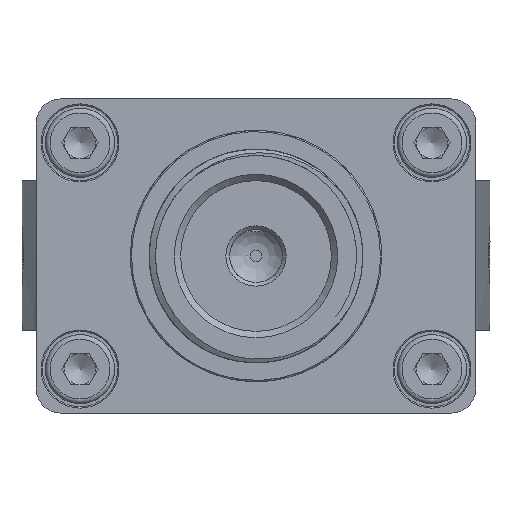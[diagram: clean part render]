
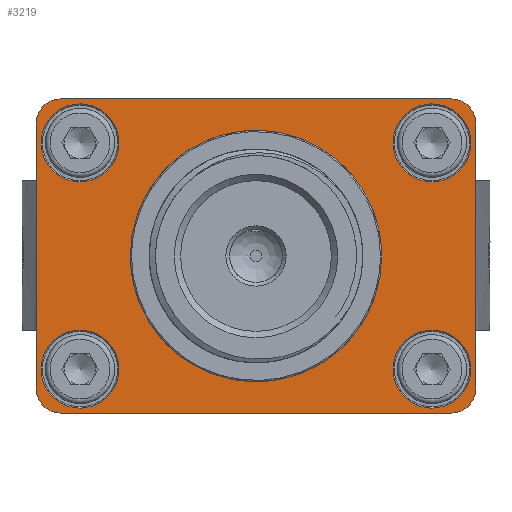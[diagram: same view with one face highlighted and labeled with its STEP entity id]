
A CAD part, front view. The second image highlights one B-rep face of the part: STEP entity #3219.
In plain terms, the highlighted planar face has unit normal (0, -1, 0).
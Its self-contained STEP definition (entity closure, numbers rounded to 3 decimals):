
#3219=ADVANCED_FACE('',(#13758,#13759,#13760,#13761,#13762,#13763),#4934,
 .T.);
#4934=PLANE('',#32162);
#6473=LINE('',#42852,#10106);
#6482=LINE('',#42883,#10115);
#6483=LINE('',#42887,#10116);
#6484=LINE('',#42892,#10117);
#10106=VECTOR('',#34336,1.);
#10115=VECTOR('',#34359,1.);
#10116=VECTOR('',#34362,1.);
#10117=VECTOR('',#34367,1.);
#13758=FACE_BOUND('',#14425,.T.);
#13759=FACE_BOUND('',#14426,.T.);
#13760=FACE_BOUND('',#14427,.T.);
#13761=FACE_BOUND('',#14428,.T.);
#13762=FACE_BOUND('',#14429,.T.);
#13763=FACE_BOUND('',#14430,.T.);
#14425=EDGE_LOOP('',(#16610));
#14426=EDGE_LOOP('',(#16611));
#14427=EDGE_LOOP('',(#16612));
#14428=EDGE_LOOP('',(#16613));
#14429=EDGE_LOOP('',(#16614));
#14430=EDGE_LOOP('',(#16615,#16616,#16617,#16618,#16619,#16620,#16621,#16622));
#16610=ORIENTED_EDGE('',*,*,#27616,.T.);
#16611=ORIENTED_EDGE('',*,*,#27614,.T.);
#16612=ORIENTED_EDGE('',*,*,#27612,.T.);
#16613=ORIENTED_EDGE('',*,*,#27610,.T.);
#16614=ORIENTED_EDGE('',*,*,#27633,.T.);
#16615=ORIENTED_EDGE('',*,*,#27649,.F.);
#16616=ORIENTED_EDGE('',*,*,#27650,.F.);
#16617=ORIENTED_EDGE('',*,*,#27651,.F.);
#16618=ORIENTED_EDGE('',*,*,#27652,.F.);
#16619=ORIENTED_EDGE('',*,*,#27653,.F.);
#16620=ORIENTED_EDGE('',*,*,#27635,.F.);
#16621=ORIENTED_EDGE('',*,*,#27654,.F.);
#16622=ORIENTED_EDGE('',*,*,#27655,.F.);
#24804=VERTEX_POINT('',#42273);
#24806=VERTEX_POINT('',#42278);
#24808=VERTEX_POINT('',#42283);
#24810=VERTEX_POINT('',#42288);
#24827=VERTEX_POINT('',#42847);
#24829=VERTEX_POINT('',#42851);
#24830=VERTEX_POINT('',#42853);
#24843=VERTEX_POINT('',#42881);
#24844=VERTEX_POINT('',#42882);
#24845=VERTEX_POINT('',#42884);
#24846=VERTEX_POINT('',#42886);
#24847=VERTEX_POINT('',#42888);
#24848=VERTEX_POINT('',#42891);
#27610=EDGE_CURVE('',#24804,#24804,#31709,.T.);
#27612=EDGE_CURVE('',#24806,#24806,#31711,.T.);
#27614=EDGE_CURVE('',#24808,#24808,#31713,.T.);
#27616=EDGE_CURVE('',#24810,#24810,#31715,.T.);
#27633=EDGE_CURVE('',#24827,#24827,#31726,.T.);
#27635=EDGE_CURVE('',#24829,#24830,#6473,.T.);
#27649=EDGE_CURVE('',#24843,#24844,#31732,.T.);
#27650=EDGE_CURVE('',#24845,#24843,#6482,.T.);
#27651=EDGE_CURVE('',#24846,#24845,#31733,.T.);
#27652=EDGE_CURVE('',#24847,#24846,#6483,.T.);
#27653=EDGE_CURVE('',#24830,#24847,#31734,.T.);
#27654=EDGE_CURVE('',#24848,#24829,#31735,.T.);
#27655=EDGE_CURVE('',#24844,#24848,#6484,.T.);
#31709=CIRCLE('',#32121,3.1);
#31711=CIRCLE('',#32124,3.1);
#31713=CIRCLE('',#32127,3.1);
#31715=CIRCLE('',#32130,3.1);
#31726=CIRCLE('',#32150,10.);
#31732=CIRCLE('',#32158,2.);
#31733=CIRCLE('',#32159,2.);
#31734=CIRCLE('',#32160,2.);
#31735=CIRCLE('',#32161,2.);
#32121=AXIS2_PLACEMENT_3D('',#42272,#34271,#34272);
#32124=AXIS2_PLACEMENT_3D('',#42277,#34277,#34278);
#32127=AXIS2_PLACEMENT_3D('',#42282,#34283,#34284);
#32130=AXIS2_PLACEMENT_3D('',#42287,#34289,#34290);
#32150=AXIS2_PLACEMENT_3D('',#42846,#34331,#34332);
#32158=AXIS2_PLACEMENT_3D('',#42880,#34357,#34358);
#32159=AXIS2_PLACEMENT_3D('',#42885,#34360,#34361);
#32160=AXIS2_PLACEMENT_3D('',#42889,#34363,#34364);
#32161=AXIS2_PLACEMENT_3D('',#42890,#34365,#34366);
#32162=AXIS2_PLACEMENT_3D('',#42893,#34368,#34369);
#34271=DIRECTION('',(0.,1.,0.));
#34272=DIRECTION('',(0.,0.,-1.));
#34277=DIRECTION('',(0.,1.,0.));
#34278=DIRECTION('',(0.,0.,-1.));
#34283=DIRECTION('',(0.,1.,0.));
#34284=DIRECTION('',(0.,0.,-1.));
#34289=DIRECTION('',(0.,1.,0.));
#34290=DIRECTION('',(0.,0.,-1.));
#34331=DIRECTION('',(0.,1.,0.));
#34332=DIRECTION('',(1.,0.,0.));
#34336=DIRECTION('',(1.,0.,0.));
#34357=DIRECTION('',(0.,1.,0.));
#34358=DIRECTION('',(0.,0.,-1.));
#34359=DIRECTION('',(-1.,0.,0.));
#34360=DIRECTION('',(0.,1.,0.));
#34361=DIRECTION('',(0.,0.,-1.));
#34362=DIRECTION('',(0.,0.,-1.));
#34363=DIRECTION('',(0.,1.,0.));
#34364=DIRECTION('',(0.,0.,-1.));
#34365=DIRECTION('',(0.,1.,0.));
#34366=DIRECTION('',(0.,0.,-1.));
#34367=DIRECTION('',(0.,0.,1.));
#34368=DIRECTION('',(0.,-1.,0.));
#34369=DIRECTION('',(-1.,0.,0.));
#42272=CARTESIAN_POINT('',(22.5,-30.675,-17.));
#42273=CARTESIAN_POINT('',(22.5,-30.675,-20.1));
#42277=CARTESIAN_POINT('',(22.5,-30.675,1.));
#42278=CARTESIAN_POINT('',(22.5,-30.675,-2.1));
#42282=CARTESIAN_POINT('',(-5.5,-30.675,1.));
#42283=CARTESIAN_POINT('',(-5.5,-30.675,-2.1));
#42287=CARTESIAN_POINT('',(-5.5,-30.675,-17.));
#42288=CARTESIAN_POINT('',(-5.5,-30.675,-20.1));
#42846=CARTESIAN_POINT('',(8.5,-30.675,-8.));
#42847=CARTESIAN_POINT('',(18.5,-30.675,-8.));
#42851=CARTESIAN_POINT('',(-7.,-30.675,4.5));
#42852=CARTESIAN_POINT('',(-9.,-30.675,4.5));
#42853=CARTESIAN_POINT('',(24.,-30.675,4.5));
#42880=CARTESIAN_POINT('',(-7.,-30.675,-18.5));
#42881=CARTESIAN_POINT('',(-7.,-30.675,-20.5));
#42882=CARTESIAN_POINT('',(-9.,-30.675,-18.5));
#42883=CARTESIAN_POINT('',(26.,-30.675,-20.5));
#42884=CARTESIAN_POINT('',(24.,-30.675,-20.5));
#42885=CARTESIAN_POINT('',(24.,-30.675,-18.5));
#42886=CARTESIAN_POINT('',(26.,-30.675,-18.5));
#42887=CARTESIAN_POINT('',(26.,-30.675,4.5));
#42888=CARTESIAN_POINT('',(26.,-30.675,2.5));
#42889=CARTESIAN_POINT('',(24.,-30.675,2.5));
#42890=CARTESIAN_POINT('',(-7.,-30.675,2.5));
#42891=CARTESIAN_POINT('',(-9.,-30.675,2.5));
#42892=CARTESIAN_POINT('',(-9.,-30.675,-20.5));
#42893=CARTESIAN_POINT('',(-5.5,-30.675,-17.));
